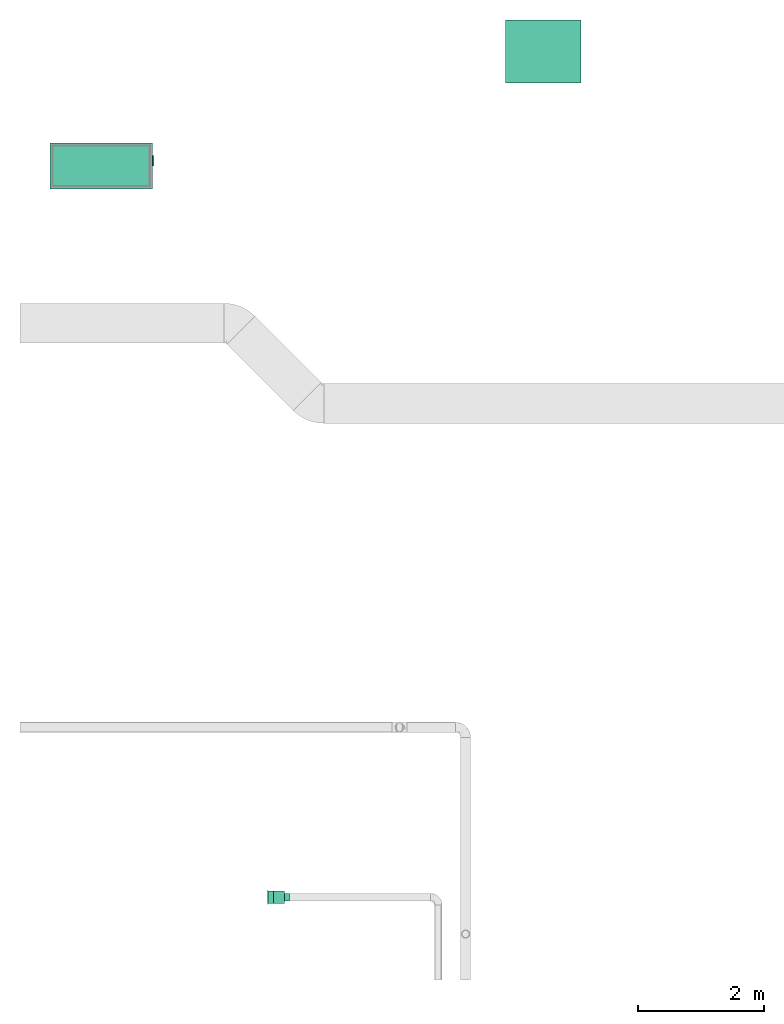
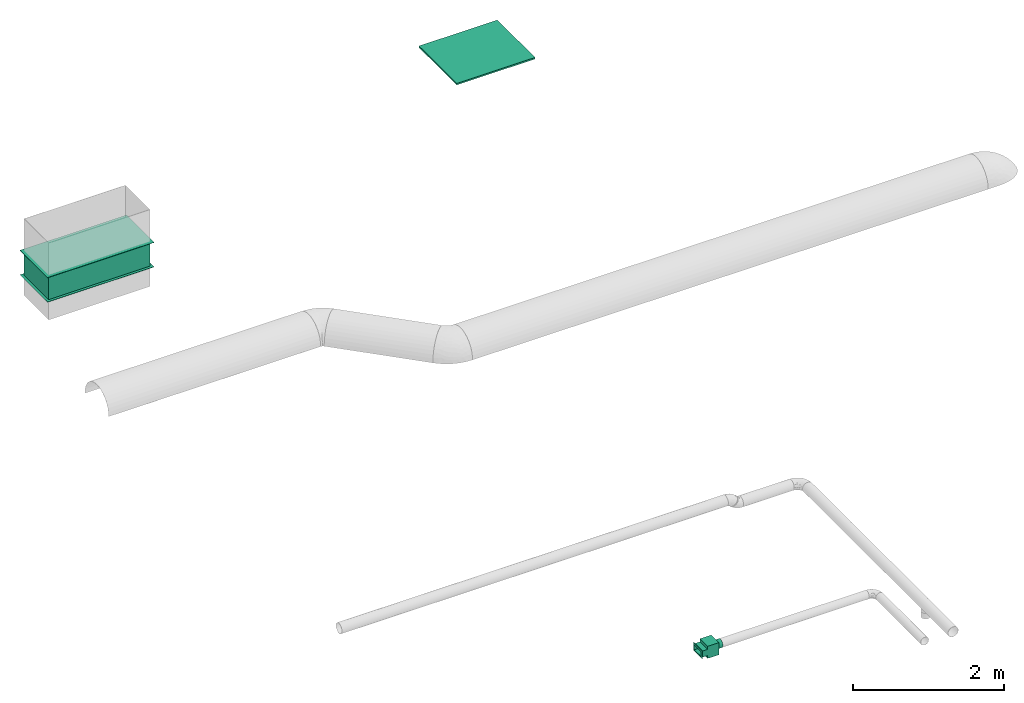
# One storey, part 5 of 10: 1 flow controller, 1 flow fitting, 1 flow terminal.
"""IFC2X3 building model written with IfcOpenShell, lengths in millimetres."""

from ifc_helpers import new_model, entity, si_unit, converted_unit, derived_unit, direction, frame, origin_with_axes, place, context, subcontext, project, spatial, open_shell, surface_model, source, transform, mapped, type_object, element, save


model = new_model("IFC2X3")

# Units and contexts
model_context = context("Model", 3, precision=0.01, world=frame((0.0, 4.29681676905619e-09, 0.0)), true_north=direction((4.01073788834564e-13, 1.0)))
plan_context = context("Plan", 3, precision=0.01, world=frame((0.0, 4.29681676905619e-09, 0.0)), true_north=direction((4.01073788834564e-13, 1.0)))
body_context = subcontext(model_context, "Body", "Model", "MODEL_VIEW")
ifc_project = project(units=[converted_unit("PLANEANGLEUNIT", "DEGREE", entity("IfcPositiveLengthMeasure", 0.0174532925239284), si_unit("PLANEANGLEUNIT", "RADIAN"), dimensions=[0, 0, 0, 0, 0, 0, 0]), si_unit("AREAUNIT", "SQUARE_METRE"), si_unit("LENGTHUNIT", "METRE", prefix="MILLI"), si_unit("MASSUNIT", "GRAM", prefix="KILO"), si_unit("POWERUNIT", "WATT"), si_unit("PRESSUREUNIT", "PASCAL"), si_unit("FORCEUNIT", "NEWTON", prefix="KILO"), si_unit("ELECTRICCURRENTUNIT", "AMPERE"), si_unit("THERMODYNAMICTEMPERATUREUNIT", "DEGREE_CELSIUS"), si_unit("TIMEUNIT", "SECOND"), si_unit("VOLUMEUNIT", "CUBIC_METRE"), derived_unit("LINEARVELOCITYUNIT", [(si_unit("LENGTHUNIT", "METRE"), 1), (si_unit("TIMEUNIT", "SECOND"), -1)]), derived_unit("VOLUMETRICFLOWRATEUNIT", [(si_unit("VOLUMEUNIT", "CUBIC_METRE"), 1), (si_unit("TIMEUNIT", "SECOND"), -1)]), derived_unit("THERMALTRANSMITTANCEUNIT", [(si_unit("POWERUNIT", "WATT"), 1), (si_unit("THERMODYNAMICTEMPERATUREUNIT", "KELVIN"), -1), (si_unit("AREAUNIT", "SQUARE_METRE"), -1)])], contexts=[model_context, plan_context])

# Site, building, storey
site_placement = place(None, frame((0.0, -4.29681676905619e-09, 0.0), z_axis=(0.0, 0.0, 1.0), x_axis=(1.0, 0.0, 0.0)))
site = spatial("IfcSite", under=ifc_project, at=site_placement, CompositionType="ELEMENT")
building_placement = place(site_placement, frame((0.0, 4.29681676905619e-09, 0.0), z_axis=(0.0, 0.0, 1.0), x_axis=(1.0, 0.0, 0.0)))
building = spatial("IfcBuilding", under=site, at=building_placement, Name="mc-building", CompositionType="ELEMENT")
storey_placement = place(building_placement, frame((0.0, 0.0, 200300.0), z_axis=(0.0, 0.0, 1.0), x_axis=(1.0, 0.0, 0.0)))
storey = spatial("IfcBuildingStorey", under=building, at=storey_placement, Name="Nivå C", CompositionType="ELEMENT", Elevation=200300.0)

# Flow controller
damper_type = type_object("IfcDamperType", Name="PK-I-S-EI90S-1550x650-DV9", PredefinedType="FIREDAMPER")
shared_shape_1 = source(origin_with_axes(), body_context, "Body", "SurfaceModel", [
    surface_model("IfcShellBasedSurfaceModel", [(-189.99999, -840.00004, 0.0), (-189.99999, -840.00004, -150.0), (-100.0, -840.00004, -150.0), (-100.0, -840.00004, 0.0), (-100.0, -779.99999, 0.0), (-100.0, -779.99999, -150.0), (-189.99999, -779.99999, -150.0), (-189.99999, -779.99999, 0.0), (200.0, -775.0, -325.0), (200.0, 775.0, -325.0), (200.0, 775.0, 325.0), (200.0, -775.0, 325.0), (-200.0, -775.0, 325.0), (-200.0, 775.0, 325.0), (-200.0, 775.0, -325.0), (-200.0, -775.0, -325.0), (195.0, -815.00004, 365.0), (195.0, 815.00004, 365.0), (195.0, 815.00004, -365.0), (195.0, -815.00004, -365.0), (200.0, -815.00004, -365.0), (200.0, 815.00004, -365.0), (200.0, 815.00004, 365.0), (200.0, -815.00004, 365.0), (-195.0, -815.00004, -365.0), (-195.0, 815.00004, -365.0), (-195.0, 815.00004, 365.0), (-195.0, -815.00004, 365.0), (-200.0, -815.00004, 365.0), (-200.0, 815.00004, 365.0), (-200.0, 815.00004, -365.0), (-200.0, -815.00004, -365.0), (-95.0, -840.00004, 0.0), (-95.0, -840.00004, -170.0), (5.0, -840.00004, -170.0), (5.0, -840.00004, 0.0), (5.0, -779.99999, 0.0), (5.0, -779.99999, -170.0), (-95.0, -779.99999, -170.0), (-95.0, -779.99999, 0.0)], [open_shell([[[0, 1, 2]], [[2, 3, 0]], [[4, 5, 6]], [[6, 7, 4]], [[6, 5, 2]], [[2, 1, 6]], [[7, 6, 0]], [[1, 0, 6]], [[4, 7, 0]], [[0, 3, 4]], [[5, 4, 2]], [[3, 2, 4]], [[8, 9, 10]], [[10, 11, 8]], [[12, 13, 14]], [[14, 15, 12]], [[10, 9, 13]], [[14, 13, 9]], [[11, 10, 13]], [[13, 12, 11]], [[8, 11, 15]], [[12, 15, 11]], [[9, 8, 15]], [[15, 14, 9]], [[16, 17, 18]], [[18, 19, 16]], [[20, 21, 22]], [[22, 23, 20]], [[22, 21, 18]], [[18, 17, 22]], [[23, 22, 17]], [[17, 16, 23]], [[20, 23, 16]], [[16, 19, 20]], [[21, 20, 19]], [[19, 18, 21]], [[24, 25, 26]], [[26, 27, 24]], [[28, 29, 30]], [[30, 31, 28]], [[26, 25, 30]], [[30, 29, 26]], [[27, 26, 29]], [[29, 28, 27]], [[24, 27, 28]], [[28, 31, 24]], [[25, 24, 31]], [[31, 30, 25]], [[32, 33, 34]], [[34, 35, 32]], [[36, 37, 38]], [[38, 39, 36]], [[38, 37, 34]], [[34, 33, 38]], [[39, 38, 33]], [[33, 32, 39]], [[36, 39, 32]], [[32, 35, 36]], [[37, 36, 35]], [[35, 34, 37]]])]),
])
flow_controller_placement = place(storey_placement, frame((515154.5, 413778.4, 3100.0), z_axis=(0.0, -1.0, 0.0), x_axis=(0.0, 0.0, 1.0)))
element("IfcFlowController", 1, at=flow_controller_placement, inside=storey, type_object=damper_type, Name="PK-I-S-EI90S-1550x650-DV9", context=body_context, shape_type="MappedRepresentation", body=[
    mapped(shared_shape_1, transform((0.0, 0.0, 0.0), scale=1.0)),
])

# Flow fitting
duct_fitting_type = type_object("IfcDuctFittingType", Name="magirect_plug1_001", PredefinedType="OBSTRUCTION")
shared_shape_2 = source(origin_with_axes(), body_context, "Body", "SurfaceModel", [
    surface_model("IfcShellBasedSurfaceModel", [(0.0, 600.0, 500.0), (0.0, 600.0, -500.0), (0.0, -600.0, -500.0), (0.0, -600.0, 500.0), (25.0, -600.0, -500.0), (25.0, 600.0, -500.0), (25.0, 600.0, 500.0), (25.0, -600.0, 500.0)], [open_shell([[[0, 1, 2]], [[2, 3, 0]], [[4, 5, 6]], [[6, 7, 4]], [[1, 0, 6]], [[6, 5, 1]], [[2, 1, 5]], [[5, 4, 2]], [[3, 2, 4]], [[4, 7, 3]], [[0, 3, 6]], [[7, 6, 3]]])]),
])
flow_fitting_placement = place(storey_placement, frame((522173.27232, 415597.83767, 2862.5), z_axis=(0.0, 1.0, 0.0), x_axis=(0.0, 0.0, 1.0)))
element("IfcFlowFitting", 2, at=flow_fitting_placement, inside=storey, type_object=duct_fitting_type, Name="magirect_plug1_001", context=body_context, shape_type="MappedRepresentation", body=[
    mapped(shared_shape_2, transform((0.0, 0.0, 0.0), scale=1.0)),
])

# Flow terminal
air_terminal_type = type_object("IfcAirTerminalType", Name="GRLc 200-100+TRGc 200-100-125-B", PredefinedType="NOTDEFINED")
shared_shape_3 = source(origin_with_axes(), body_context, "Body", "SurfaceModel", [
    surface_model("IfcShellBasedSurfaceModel", [(9.90194, -90.0, 39.98039), (4.90194, -115.0, 64.98039), (4.90194, 115.0, 64.98039), (9.90194, 90.0, 39.98039), (10.09806, 90.0, 40.01961), (5.09806, 115.0, 65.01961), (10.09806, -90.0, 40.01961), (5.09806, -115.0, 65.01961), (10.09806, -90.0, -40.01961), (5.09806, -115.0, -65.01961), (5.09806, 115.0, -65.01961), (10.09806, 90.0, -40.01961), (9.90194, 90.0, -39.98039), (4.90194, 115.0, -64.98039), (9.90194, -90.0, -39.98039), (4.90194, -115.0, -64.98039), (9.90194, -89.98039, -40.0), (4.90194, -114.98039, -65.0), (4.90194, -114.98039, 65.0), (9.90194, -89.98039, 40.0), (10.09806, -90.01961, 40.0), (5.09806, -115.01961, 65.0), (10.09806, -90.01961, -40.0), (5.09806, -115.01961, -65.0), (10.09806, 90.01961, -40.0), (5.09806, 115.01961, -65.0), (5.09806, 115.01961, 65.0), (10.09806, 90.01961, 40.0), (9.90194, 89.98039, 40.0), (4.90194, 114.98039, 65.0), (9.90194, 89.98039, -40.0), (4.90194, 114.98039, -65.0), (-0.1, 115.0, 50.0), (-0.1, 101.5, 50.0), (-0.1, 101.5, 65.0), (-0.1, 115.0, 65.0), (0.1, 115.0, 65.0), (0.1, 101.5, 65.0), (0.1, 101.5, 50.0), (0.1, 115.0, 50.0), (-0.1, 115.0, -65.0), (-0.1, 101.5, -65.0), (-0.1, 101.5, -50.0), (-0.1, 115.0, -50.0), (0.1, 115.0, -50.0), (0.1, 101.5, -50.0), (0.1, 101.5, -65.0), (0.1, 115.0, -65.0), (-0.1, -101.5, -65.0), (-0.1, -115.0, -65.0), (-0.1, -115.0, -50.0), (-0.1, -101.5, -50.0), (0.1, -101.5, -50.0), (0.1, -115.0, -50.0), (0.1, -115.0, -65.0), (0.1, -101.5, -65.0), (-0.1, -101.5, 50.0), (-0.1, -115.0, 50.0), (-0.1, -115.0, 65.0), (-0.1, -101.5, 65.0), (0.1, -101.5, 65.0), (0.1, -115.0, 65.0), (0.1, -115.0, 50.0), (0.1, -101.5, 50.0), (0.0, -115.0, 64.9), (0.0, 115.0, 64.9), (5.0, 115.0, 64.9), (5.0, -115.0, 64.9), (5.0, -115.0, 65.1), (5.0, 115.0, 65.1), (0.0, -115.0, 65.1), (0.0, 115.0, 65.1), (0.0, 114.9, -65.0), (5.0, 114.9, -65.0), (5.0, 114.9, 65.0), (0.0, 114.9, 65.0), (0.0, 115.1, 65.0), (5.0, 115.1, 65.0), (0.0, 115.1, -65.0), (5.0, 115.1, -65.0), (0.0, -115.1, -65.0), (5.0, -115.1, -65.0), (5.0, -115.1, 65.0), (0.0, -115.1, 65.0), (0.0, -114.9, 65.0), (5.0, -114.9, 65.0), (0.0, -114.9, -65.0), (5.0, -114.9, -65.0), (0.0, -115.0, -65.1), (0.0, 115.0, -65.1), (5.0, 115.0, -65.1), (5.0, -115.0, -65.1), (5.0, -115.0, -64.9), (5.0, 115.0, -64.9), (0.0, -115.0, -64.9), (0.0, 115.0, -64.9), (5.0, -90.0, -40.1), (5.0, 90.0, -40.1), (10.0, 90.0, -40.1), (10.0, -90.0, -40.1), (10.0, -90.0, -39.9), (10.0, 90.0, -39.9), (5.0, -90.0, -39.9), (5.0, 90.0, -39.9), (5.0, -90.0, 39.9), (5.0, 90.0, 39.9), (10.0, 90.0, 39.9), (10.0, -90.0, 39.9), (10.0, -90.0, 40.1), (10.0, 90.0, 40.1), (5.0, -90.0, 40.1), (5.0, 90.0, 40.1), (5.0, 89.9, -40.0), (10.0, 89.9, -40.0), (5.0, 89.9, 40.0), (10.0, 89.9, 40.0), (5.0, 90.1, 40.0), (10.0, 90.1, 40.0), (5.0, 90.1, -40.0), (10.0, 90.1, -40.0), (5.0, -90.1, -40.0), (10.0, -90.1, -40.0), (5.0, -90.1, 40.0), (10.0, -90.1, 40.0), (5.0, -89.9, 40.0), (10.0, -89.9, 40.0), (5.0, -89.9, -40.0), (10.0, -89.9, -40.0), (-85.0, 101.4, -50.0), (0.0, 101.4, -50.0), (-85.0, 101.4, 50.0), (0.0, 101.4, 50.0), (-85.0, 101.6, 50.0), (0.0, 101.6, 50.0), (0.0, 101.6, -50.0), (-85.0, 101.6, -50.0), (-85.0, -101.6, -50.0), (0.0, -101.6, -50.0), (-85.0, -101.6, 50.0), (0.0, -101.6, 50.0), (-85.0, -101.4, 50.0), (0.0, -101.4, 50.0), (0.0, -101.4, -50.0), (-85.0, -101.4, -50.0), (-85.0, -101.5, -50.1), (-85.0, 101.5, -50.1), (0.0, -101.5, -50.1), (0.0, 101.5, -50.1), (0.0, -101.5, -49.9), (0.0, 101.5, -49.9), (-85.0, 101.5, -49.9), (-85.0, -101.5, -49.9), (-85.0, -101.5, 49.9), (-85.0, 101.5, 49.9), (0.0, -101.5, 49.9), (0.0, 101.5, 49.9), (0.0, -101.5, 50.1), (0.0, 101.5, 50.1), (-85.0, 101.5, 50.1), (-85.0, -101.5, 50.1), (-259.99999, 101.5, 97.5), (-259.99999, -101.5, 97.5), (-85.0, 101.5, 97.5), (-85.0, -101.5, 97.5), (-85.0, 101.5, -97.5), (-85.0, -101.5, -97.5), (-259.99999, -101.5, -97.5), (-259.99999, 101.5, -97.5), (-259.99999, 31.25, -53.62659), (-259.99999, 44.19417, -43.69417), (-259.99999, 31.15, -53.45338), (-259.99999, 16.12443, -59.67718), (-259.99999, 0.0, -61.8), (-259.99999, 16.17619, -59.87036), (-259.99999, 0.0, -62.0), (-259.99999, 44.05275, -43.55275), (-259.99999, 60.37037, -15.67619), (-259.99999, 62.3, 0.5), (-259.99999, 60.17718, -15.62443), (-259.99999, 62.5, 0.5), (-259.99999, 54.12659, -30.75), (-259.99999, 53.95338, -30.65), (-259.99999, -16.12443, -59.67718), (-259.99999, -16.17619, -59.87036), (-259.99999, -31.15, -53.45338), (-259.99999, -44.19417, -43.69417), (-259.99999, -31.25, -53.62659), (-259.99999, -44.05275, -43.55275), (-259.99999, -53.95338, -30.65), (-259.99999, -54.12659, -30.75), (-259.99999, -60.17718, -15.62443), (-259.99999, -60.37037, -15.67619), (-259.99999, -62.3, 0.5), (-259.99999, -62.5, 0.5), (-259.99999, 60.37037, 16.67619), (-259.99999, 60.17718, 16.62443), (-259.99999, 53.95338, 31.65), (-259.99999, 54.12659, 31.75), (-259.99999, 44.05275, 44.55275), (-259.99999, 44.19417, 44.69417), (-259.99999, 31.25, 54.62659), (-259.99999, 31.15, 54.45338), (-259.99999, 16.12443, 60.67718), (-259.99999, 16.17619, 60.87036), (-259.99999, 0.0, 62.8), (-259.99999, 0.0, 63.0), (-259.99999, -54.12659, 31.75), (-259.99999, -53.95338, 31.65), (-259.99999, -44.19417, 44.69417), (-259.99999, -44.05275, 44.55275), (-259.99999, -60.37037, 16.67619), (-259.99999, -60.17718, 16.62443), (-259.99999, -16.12443, 60.67718), (-259.99999, -16.17619, 60.87036), (-259.99999, -31.15, 54.45338), (-259.99999, -31.25, 54.62659), (-340.0, 31.25, 54.62659), (-340.0, 44.19417, 44.69417), (-340.0, 31.15, 54.45338), (-340.0, 16.12443, 60.67718), (-340.0, 0.0, 62.8), (-340.0, 16.17619, 60.87036), (-340.0, 0.0, 63.0), (-340.0, 44.05275, 44.55275), (-340.0, 60.37037, 16.67619), (-340.0, 62.3, 0.5), (-340.0, 60.17718, 16.62443), (-340.0, 62.5, 0.5), (-340.0, 54.12659, 31.75), (-340.0, 53.95338, 31.65), (-340.0, -16.12443, 60.67718), (-340.0, -16.17619, 60.87036), (-340.0, -31.15, 54.45338), (-340.0, -44.19417, 44.69417), (-340.0, -31.25, 54.62659), (-340.0, -44.05275, 44.55275), (-340.0, -53.95338, 31.65), (-340.0, -54.12659, 31.75), (-340.0, -60.17718, 16.62443), (-340.0, -60.37037, 16.67619), (-340.0, -62.3, 0.5), (-340.0, -62.5, 0.5), (-340.0, 60.37037, -15.67619), (-340.0, 60.17718, -15.62443), (-340.0, 53.95338, -30.65), (-340.0, 54.12659, -30.75), (-340.0, 44.05275, -43.55275), (-340.0, 44.19417, -43.69417), (-340.0, 31.25, -53.62659), (-340.0, 31.15, -53.45338), (-340.0, 16.12443, -59.67718), (-340.0, 16.17619, -59.87036), (-340.0, 0.0, -61.8), (-340.0, 0.0, -62.0), (-340.0, -54.12659, -30.75), (-340.0, -53.95338, -30.65), (-340.0, -44.19417, -43.69417), (-340.0, -44.05275, -43.55275), (-340.0, -60.37037, -15.67619), (-340.0, -60.17718, -15.62443), (-340.0, -16.12443, -59.67718), (-340.0, -16.17619, -59.87036), (-340.0, -31.15, -53.45338), (-340.0, -31.25, -53.62659)], [open_shell([[[0, 1, 2]], [[2, 3, 0]], [[4, 5, 6]], [[7, 6, 5]], [[2, 1, 5]], [[7, 5, 1]], [[3, 2, 5]], [[5, 4, 3]], [[0, 3, 4]], [[4, 6, 0]], [[1, 0, 6]], [[6, 7, 1]], [[8, 9, 10]], [[10, 11, 8]], [[12, 13, 14]], [[15, 14, 13]], [[10, 9, 13]], [[15, 13, 9]], [[11, 10, 12]], [[13, 12, 10]], [[8, 11, 12]], [[12, 14, 8]], [[9, 8, 14]], [[14, 15, 9]], [[16, 17, 18]], [[18, 19, 16]], [[20, 21, 22]], [[23, 22, 21]], [[18, 17, 23]], [[23, 21, 18]], [[19, 18, 21]], [[21, 20, 19]], [[16, 19, 20]], [[20, 22, 16]], [[17, 16, 23]], [[22, 23, 16]], [[24, 25, 26]], [[26, 27, 24]], [[28, 29, 30]], [[31, 30, 29]], [[26, 25, 31]], [[31, 29, 26]], [[27, 26, 29]], [[29, 28, 27]], [[24, 27, 28]], [[28, 30, 24]], [[25, 24, 30]], [[30, 31, 25]], [[32, 33, 34]], [[34, 35, 32]], [[36, 37, 38]], [[38, 39, 36]], [[34, 33, 38]], [[38, 37, 34]], [[35, 34, 37]], [[37, 36, 35]], [[32, 35, 36]], [[36, 39, 32]], [[33, 32, 39]], [[39, 38, 33]], [[40, 41, 42]], [[42, 43, 40]], [[44, 45, 46]], [[46, 47, 44]], [[42, 41, 46]], [[46, 45, 42]], [[43, 42, 45]], [[45, 44, 43]], [[40, 43, 44]], [[44, 47, 40]], [[41, 40, 47]], [[47, 46, 41]], [[48, 49, 50]], [[50, 51, 48]], [[52, 53, 54]], [[54, 55, 52]], [[50, 49, 54]], [[54, 53, 50]], [[51, 50, 53]], [[53, 52, 51]], [[48, 51, 52]], [[52, 55, 48]], [[49, 48, 55]], [[55, 54, 49]], [[56, 57, 58]], [[58, 59, 56]], [[60, 61, 62]], [[62, 63, 60]], [[58, 57, 62]], [[62, 61, 58]], [[59, 58, 61]], [[61, 60, 59]], [[56, 59, 60]], [[60, 63, 56]], [[57, 56, 63]], [[63, 62, 57]], [[64, 65, 66]], [[66, 67, 64]], [[68, 69, 70]], [[71, 70, 69]], [[66, 65, 69]], [[71, 69, 65]], [[67, 66, 68]], [[69, 68, 66]], [[64, 67, 68]], [[68, 70, 64]], [[65, 64, 71]], [[70, 71, 64]], [[72, 73, 74]], [[74, 75, 72]], [[76, 77, 78]], [[79, 78, 77]], [[74, 73, 79]], [[79, 77, 74]], [[75, 74, 77]], [[77, 76, 75]], [[72, 75, 78]], [[76, 78, 75]], [[73, 72, 78]], [[78, 79, 73]], [[80, 81, 82]], [[82, 83, 80]], [[84, 85, 86]], [[87, 86, 85]], [[82, 81, 87]], [[87, 85, 82]], [[83, 82, 85]], [[85, 84, 83]], [[80, 83, 86]], [[84, 86, 83]], [[81, 80, 86]], [[86, 87, 81]], [[88, 89, 90]], [[90, 91, 88]], [[92, 93, 94]], [[95, 94, 93]], [[90, 89, 93]], [[95, 93, 89]], [[91, 90, 92]], [[93, 92, 90]], [[88, 91, 92]], [[92, 94, 88]], [[89, 88, 95]], [[94, 95, 88]], [[96, 97, 98]], [[98, 99, 96]], [[100, 101, 102]], [[103, 102, 101]], [[98, 97, 101]], [[103, 101, 97]], [[99, 98, 101]], [[101, 100, 99]], [[96, 99, 100]], [[100, 102, 96]], [[97, 96, 102]], [[102, 103, 97]], [[104, 105, 106]], [[106, 107, 104]], [[108, 109, 110]], [[111, 110, 109]], [[106, 105, 109]], [[111, 109, 105]], [[107, 106, 109]], [[109, 108, 107]], [[104, 107, 108]], [[108, 110, 104]], [[105, 104, 110]], [[110, 111, 105]], [[112, 113, 114]], [[115, 114, 113]], [[116, 117, 118]], [[119, 118, 117]], [[115, 113, 119]], [[119, 117, 115]], [[114, 115, 117]], [[117, 116, 114]], [[112, 114, 116]], [[116, 118, 112]], [[113, 112, 118]], [[118, 119, 113]], [[120, 121, 122]], [[123, 122, 121]], [[124, 125, 126]], [[127, 126, 125]], [[123, 121, 127]], [[127, 125, 123]], [[122, 123, 125]], [[125, 124, 122]], [[120, 122, 124]], [[124, 126, 120]], [[121, 120, 126]], [[126, 127, 121]], [[33, 56, 34]], [[59, 34, 56]], [[37, 60, 63]], [[63, 38, 37]], [[59, 56, 63]], [[63, 60, 59]], [[34, 59, 60]], [[60, 37, 34]], [[33, 34, 37]], [[37, 38, 33]], [[56, 33, 38]], [[38, 63, 56]], [[51, 50, 56]], [[57, 56, 50]], [[63, 62, 52]], [[53, 52, 62]], [[57, 50, 53]], [[53, 62, 57]], [[56, 57, 62]], [[62, 63, 56]], [[51, 56, 63]], [[63, 52, 51]], [[50, 51, 52]], [[52, 53, 50]], [[41, 48, 42]], [[51, 42, 48]], [[45, 52, 55]], [[55, 46, 45]], [[51, 48, 55]], [[55, 52, 51]], [[42, 51, 52]], [[52, 45, 42]], [[41, 42, 45]], [[45, 46, 41]], [[48, 41, 46]], [[46, 55, 48]], [[43, 42, 32]], [[33, 32, 42]], [[39, 38, 44]], [[45, 44, 38]], [[33, 42, 45]], [[45, 38, 33]], [[32, 33, 38]], [[38, 39, 32]], [[43, 32, 39]], [[39, 44, 43]], [[42, 43, 44]], [[44, 45, 42]], [[128, 129, 130]], [[131, 130, 129]], [[132, 133, 134]], [[134, 135, 132]], [[131, 129, 134]], [[134, 133, 131]], [[130, 131, 133]], [[133, 132, 130]], [[128, 130, 132]], [[132, 135, 128]], [[129, 128, 135]], [[135, 134, 129]], [[136, 137, 138]], [[139, 138, 137]], [[140, 141, 142]], [[142, 143, 140]], [[139, 137, 142]], [[142, 141, 139]], [[138, 139, 141]], [[141, 140, 138]], [[136, 138, 140]], [[140, 143, 136]], [[137, 136, 143]], [[143, 142, 137]], [[144, 145, 146]], [[147, 146, 145]], [[148, 149, 150]], [[150, 151, 148]], [[147, 145, 150]], [[150, 149, 147]], [[146, 147, 149]], [[149, 148, 146]], [[144, 146, 148]], [[148, 151, 144]], [[145, 144, 151]], [[151, 150, 145]], [[152, 153, 154]], [[155, 154, 153]], [[156, 157, 158]], [[158, 159, 156]], [[155, 153, 158]], [[158, 157, 155]], [[154, 155, 157]], [[157, 156, 154]], [[152, 154, 156]], [[156, 159, 152]], [[153, 152, 159]], [[159, 158, 153]], [[160, 161, 162]], [[163, 162, 161]], [[164, 165, 166]], [[166, 167, 164]], [[163, 161, 166]], [[166, 165, 163]], [[162, 163, 164]], [[165, 164, 163]], [[160, 162, 164]], [[164, 167, 160]], [[161, 160, 166]], [[167, 166, 160]], [[168, 169, 170]], [[168, 170, 171]], [[172, 173, 171]], [[173, 172, 174]], [[171, 173, 168]], [[170, 169, 175]], [[176, 177, 178]], [[177, 176, 179]], [[176, 178, 180]], [[175, 180, 181]], [[180, 175, 169]], [[181, 180, 178]], [[174, 182, 183]], [[183, 182, 184]], [[185, 186, 187]], [[184, 186, 183]], [[184, 187, 186]], [[174, 172, 182]], [[188, 189, 185]], [[189, 188, 190]], [[188, 185, 187]], [[191, 190, 192]], [[190, 191, 189]], [[191, 192, 193]], [[179, 194, 195]], [[195, 194, 196]], [[196, 197, 198]], [[197, 196, 194]], [[198, 197, 199]], [[199, 200, 201]], [[201, 200, 202]], [[202, 203, 204]], [[203, 202, 200]], [[204, 203, 205]], [[201, 198, 199]], [[206, 207, 208]], [[208, 207, 209]], [[207, 206, 210]], [[193, 211, 210]], [[210, 211, 207]], [[193, 192, 211]], [[212, 205, 213]], [[212, 213, 214]], [[209, 215, 208]], [[209, 214, 215]], [[215, 214, 213]], [[204, 205, 212]], [[195, 177, 179]], [[216, 217, 218]], [[216, 218, 219]], [[220, 221, 219]], [[221, 220, 222]], [[219, 221, 216]], [[218, 217, 223]], [[224, 225, 226]], [[225, 224, 227]], [[224, 226, 228]], [[223, 228, 229]], [[228, 223, 217]], [[229, 228, 226]], [[222, 230, 231]], [[231, 230, 232]], [[233, 234, 235]], [[232, 234, 231]], [[232, 235, 234]], [[222, 220, 230]], [[236, 237, 233]], [[237, 236, 238]], [[236, 233, 235]], [[239, 238, 240]], [[238, 239, 237]], [[239, 240, 241]], [[227, 242, 243]], [[243, 242, 244]], [[244, 245, 246]], [[245, 244, 242]], [[246, 245, 247]], [[247, 248, 249]], [[249, 248, 250]], [[250, 251, 252]], [[251, 250, 248]], [[252, 251, 253]], [[249, 246, 247]], [[254, 255, 256]], [[256, 255, 257]], [[255, 254, 258]], [[241, 259, 258]], [[258, 259, 255]], [[241, 240, 259]], [[260, 253, 261]], [[260, 261, 262]], [[257, 263, 256]], [[257, 262, 263]], [[263, 262, 261]], [[252, 253, 260]], [[243, 225, 227]], [[191, 258, 254]], [[256, 189, 254]], [[186, 263, 261]], [[256, 263, 185]], [[183, 261, 253]], [[258, 193, 241]], [[258, 191, 193]], [[254, 189, 191]], [[256, 185, 189]], [[186, 185, 263]], [[261, 183, 186]], [[253, 174, 183]], [[173, 251, 248]], [[247, 168, 248]], [[180, 245, 242]], [[247, 245, 169]], [[176, 242, 227]], [[251, 173, 174]], [[248, 168, 173]], [[247, 169, 168]], [[245, 180, 169]], [[176, 180, 242]], [[227, 179, 176]], [[251, 174, 253]], [[224, 194, 227]], [[228, 197, 224]], [[203, 221, 222]], [[217, 199, 228]], [[224, 197, 194]], [[194, 179, 227]], [[216, 200, 199]], [[216, 221, 200]], [[221, 203, 200]], [[199, 197, 228]], [[199, 217, 216]], [[222, 205, 203]], [[213, 231, 234]], [[233, 215, 234]], [[206, 237, 239]], [[233, 237, 208]], [[210, 239, 241]], [[231, 213, 205]], [[234, 215, 213]], [[233, 208, 215]], [[237, 206, 208]], [[210, 206, 239]], [[241, 193, 210]], [[231, 205, 222]], [[255, 259, 190]], [[255, 188, 257]], [[260, 262, 184]], [[187, 262, 257]], [[252, 260, 182]], [[240, 192, 259]], [[192, 190, 259]], [[190, 188, 255]], [[188, 187, 257]], [[262, 187, 184]], [[184, 182, 260]], [[182, 172, 252]], [[249, 250, 171]], [[249, 170, 246]], [[243, 244, 181]], [[175, 244, 246]], [[225, 243, 178]], [[172, 171, 250]], [[171, 170, 249]], [[170, 175, 246]], [[175, 181, 244]], [[243, 181, 178]], [[178, 177, 225]], [[252, 172, 250]], [[225, 195, 226]], [[226, 196, 229]], [[220, 219, 202]], [[229, 198, 223]], [[195, 196, 226]], [[225, 177, 195]], [[198, 201, 218]], [[201, 219, 218]], [[201, 202, 219]], [[229, 196, 198]], [[218, 223, 198]], [[202, 204, 220]], [[232, 230, 212]], [[232, 214, 235]], [[238, 236, 207]], [[209, 236, 235]], [[240, 238, 211]], [[204, 212, 230]], [[212, 214, 232]], [[214, 209, 235]], [[209, 207, 236]], [[238, 207, 211]], [[211, 192, 240]], [[220, 204, 230]]])]),
])
flow_terminal_placement = place(storey_placement, frame((517801.33125, 402160.46875, 2879.49971), z_axis=(0.0, 0.0, 1.0), x_axis=(-1.0, 0.0, 0.0)))
element("IfcFlowTerminal", 3, at=flow_terminal_placement, inside=storey, type_object=air_terminal_type, Name="GRLc 200-100+TRGc 200-100-125-B", context=body_context, shape_type="MappedRepresentation", body=[
    mapped(shared_shape_3, transform((0.0, 0.0, 0.0), scale=1.0)),
])

save(model, "model.ifc")
